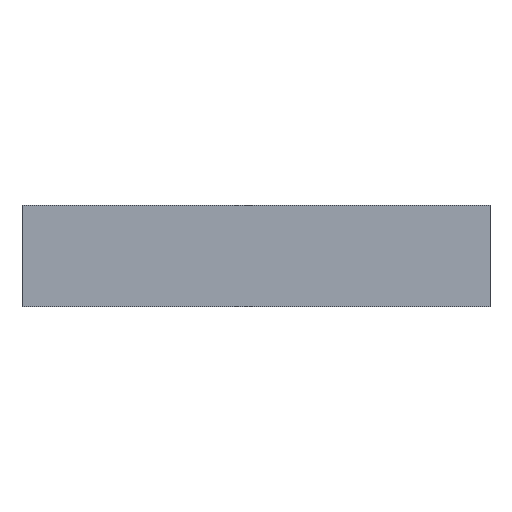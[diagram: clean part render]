
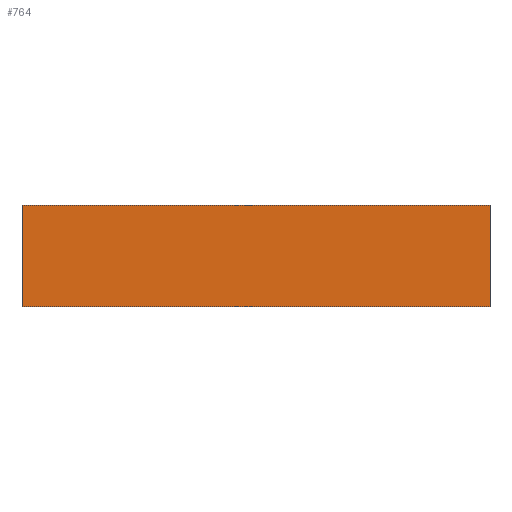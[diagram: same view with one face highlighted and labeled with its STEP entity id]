
A CAD part, front view. The second image highlights one B-rep face of the part: STEP entity #764.
In plain terms, the highlighted planar face has unit normal (0, -1, 0).
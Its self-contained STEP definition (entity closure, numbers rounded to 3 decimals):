
#19 = VECTOR ( 'NONE', #436, 1000. ) ;
#25 = VECTOR ( 'NONE', #455, 1000. ) ;
#39 = FACE_OUTER_BOUND ( 'NONE', #737, .T. ) ;
#96 = LINE ( 'NONE', #458, #19 ) ;
#104 = VERTEX_POINT ( 'NONE', #146 ) ;
#107 = VERTEX_POINT ( 'NONE', #537 ) ;
#130 = VERTEX_POINT ( 'NONE', #487 ) ;
#136 = VERTEX_POINT ( 'NONE', #464 ) ;
#146 = CARTESIAN_POINT ( 'NONE',  ( -150., 0., 65. ) ) ;
#156 = VECTOR ( 'NONE', #459, 1000. ) ;
#259 = DIRECTION ( 'NONE',  ( -1., 0., 0. ) ) ;
#261 = DIRECTION ( 'NONE',  ( 0., 1., 0. ) ) ;
#268 = CARTESIAN_POINT ( 'NONE',  ( -150., 0., 65. ) ) ;
#272 = PLANE ( 'NONE',  #902 ) ;
#326 = EDGE_CURVE ( 'NONE', #104, #107, #792, .T. ) ;
#342 = EDGE_CURVE ( 'NONE', #104, #130, #879, .T. ) ;
#343 = EDGE_CURVE ( 'NONE', #130, #136, #914, .T. ) ;
#349 = EDGE_CURVE ( 'NONE', #107, #136, #96, .T. ) ;
#436 = DIRECTION ( 'NONE',  ( 0., 0., -1. ) ) ;
#455 = DIRECTION ( 'NONE',  ( 1., 0., 0. ) ) ;
#458 = CARTESIAN_POINT ( 'NONE',  ( 150., 0., 65. ) ) ;
#459 = DIRECTION ( 'NONE',  ( 0., 0., -1. ) ) ;
#460 = CARTESIAN_POINT ( 'NONE',  ( -150., 0., 65. ) ) ;
#464 = CARTESIAN_POINT ( 'NONE',  ( 150., 0., 0. ) ) ;
#471 = CARTESIAN_POINT ( 'NONE',  ( -150., 0., 0. ) ) ;
#487 = CARTESIAN_POINT ( 'NONE',  ( -150., 0., 0. ) ) ;
#515 = DIRECTION ( 'NONE',  ( 1., 0., 0. ) ) ;
#522 = CARTESIAN_POINT ( 'NONE',  ( -150., 0., 65. ) ) ;
#537 = CARTESIAN_POINT ( 'NONE',  ( 150., 0., 65. ) ) ;
#587 = VECTOR ( 'NONE', #515, 1000. ) ;
#737 = EDGE_LOOP ( 'NONE', ( #843, #842, #841, #840 ) ) ;
#764 = ADVANCED_FACE ( 'NONE', ( #39 ), #272, .F. ) ;
#792 = LINE ( 'NONE', #522, #587 ) ;
#840 = ORIENTED_EDGE ( 'NONE', *, *, #342, .T. ) ;
#841 = ORIENTED_EDGE ( 'NONE', *, *, #326, .F. ) ;
#842 = ORIENTED_EDGE ( 'NONE', *, *, #349, .F. ) ;
#843 = ORIENTED_EDGE ( 'NONE', *, *, #343, .T. ) ;
#879 = LINE ( 'NONE', #460, #156 ) ;
#902 = AXIS2_PLACEMENT_3D ( 'NONE', #268, #261, #259 ) ;
#914 = LINE ( 'NONE', #471, #25 ) ;
